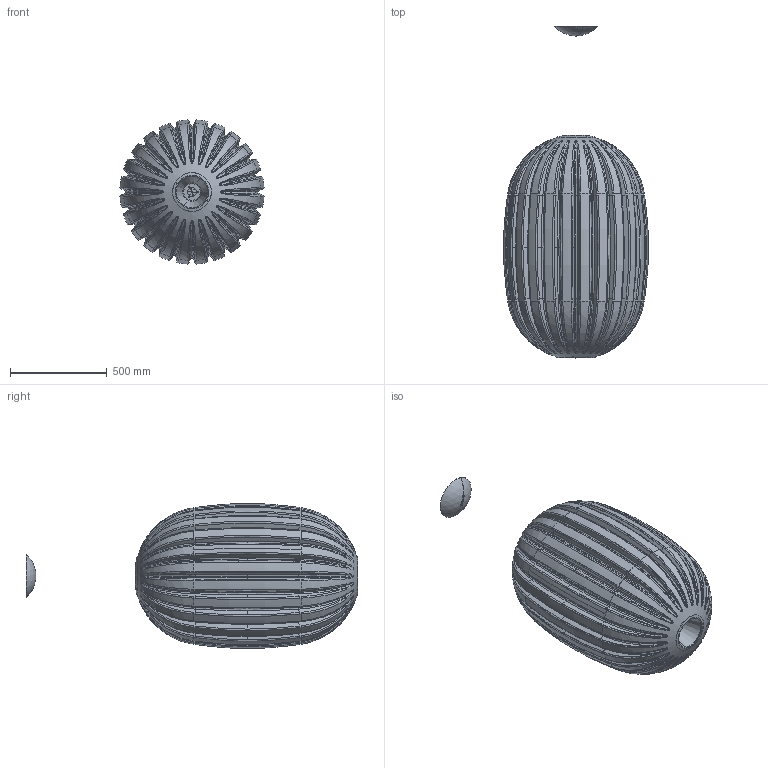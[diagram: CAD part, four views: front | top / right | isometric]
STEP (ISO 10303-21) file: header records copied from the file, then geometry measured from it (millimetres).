
FILE_DESCRIPTION (( 'STEP AP214' ), '1' );
FILE_NAME ('224_GRANDE_S_LD_3D.STEP', '2021-05-06T10:44:44', ( '' ), ( '' ), 'SwSTEP 2.0', 'SolidWorks 2021', '' );
FILE_SCHEMA (( 'AUTOMOTIVE_DESIGN' ));
Length unit declared in the file: millimetre
Products named in the file (1): 224_GRANDE_S_LD_3D
Bounding box: 744.97 x 1711.61 x 744.97 mm (x, y, z)
Volume: 12245743.9 mm3; surface area: 7079533.5 mm2
Topology: 11 solids, 11 shells, 1988 faces, 4634 edges, 2660 vertices
Faces by surface type: bspline 870, torus 460, cone 426, cylinder 145, plane 71, sphere 16
Entity records: 276234 total; most frequent: CARTESIAN_POINT 214951, ORIENTED_EDGE 9260, DIRECTION 6806, EDGE_CURVE 4630, AXIS2_PLACEMENT_3D 3107, VERTEX_POINT 2660, EDGE_LOOP 2036, B_SPLINE_CURVE_WITH_KNOTS 2010
